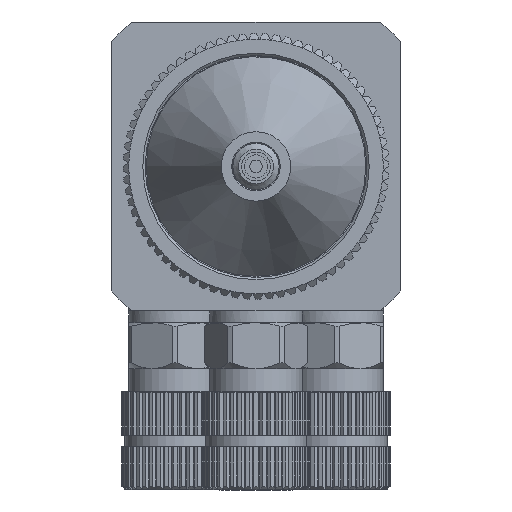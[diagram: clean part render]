
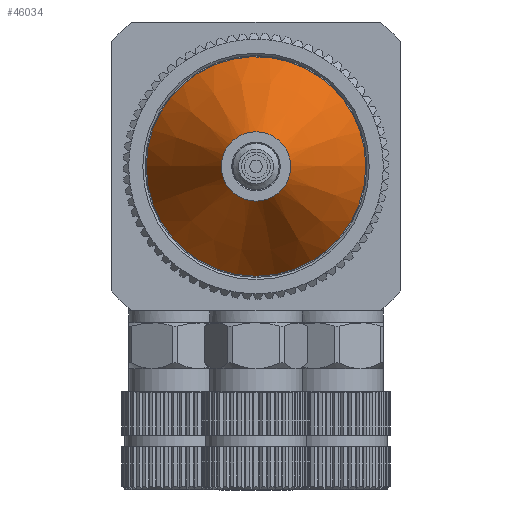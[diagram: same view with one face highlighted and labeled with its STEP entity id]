
A CAD part, front view. The second image highlights one B-rep face of the part: STEP entity #46034.
In plain terms, the highlighted conical face has half-angle 30 degrees and reference radius 9.5 mm.
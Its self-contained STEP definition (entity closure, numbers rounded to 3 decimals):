
#6205 = CARTESIAN_POINT ( 'NONE',  ( 0., -24.242, 0. ) ) ;
#9795 = DIRECTION ( 'NONE',  ( 0., -1., 0. ) ) ;
#10166 = CIRCLE ( 'NONE', #41568, 9.5 ) ;
#10534 = FACE_OUTER_BOUND ( 'NONE', #12149, .T. ) ;
#11291 = VERTEX_POINT ( 'NONE', #42253 ) ;
#12149 = EDGE_LOOP ( 'NONE', ( #36572 ) ) ;
#13152 = DIRECTION ( 'NONE',  ( 0., -1., 0. ) ) ;
#14275 = DIRECTION ( 'NONE',  ( -1., 0., 0. ) ) ;
#18343 = CARTESIAN_POINT ( 'NONE',  ( 0., -35.5, 0. ) ) ;
#21434 = CONICAL_SURFACE ( 'NONE', #26076, 9.5, 0.524 ) ;
#22346 = VERTEX_POINT ( 'NONE', #35934 ) ;
#24411 = FACE_BOUND ( 'NONE', #34135, .T. ) ;
#26076 = AXIS2_PLACEMENT_3D ( 'NONE', #6205, #37433, #55050 ) ;
#27487 = EDGE_CURVE ( 'NONE', #22346, #22346, #37877, .T. ) ;
#34135 = EDGE_LOOP ( 'NONE', ( #53067 ) ) ;
#35934 = CARTESIAN_POINT ( 'NONE',  ( -3., -35.5, 0. ) ) ;
#36572 = ORIENTED_EDGE ( 'NONE', *, *, #53636, .T. ) ;
#37433 = DIRECTION ( 'NONE',  ( 0., 1., 0. ) ) ;
#37877 = CIRCLE ( 'NONE', #42509, 3. ) ;
#41568 = AXIS2_PLACEMENT_3D ( 'NONE', #53172, #9795, #49091 ) ;
#42253 = CARTESIAN_POINT ( 'NONE',  ( 2.721, -24.242, 9.102 ) ) ;
#42509 = AXIS2_PLACEMENT_3D ( 'NONE', #18343, #13152, #14275 ) ;
#46034 = ADVANCED_FACE ( 'NONE', ( #24411, #10534 ), #21434, .T. ) ;
#49091 = DIRECTION ( 'NONE',  ( 0.286, 0., 0.958 ) ) ;
#53067 = ORIENTED_EDGE ( 'NONE', *, *, #27487, .F. ) ;
#53172 = CARTESIAN_POINT ( 'NONE',  ( 0., -24.242, 0. ) ) ;
#53636 = EDGE_CURVE ( 'NONE', #11291, #11291, #10166, .T. ) ;
#55050 = DIRECTION ( 'NONE',  ( -1., 0., 0. ) ) ;
